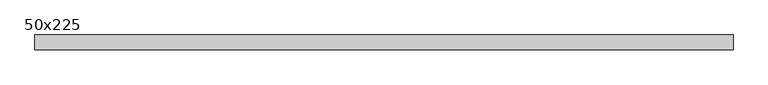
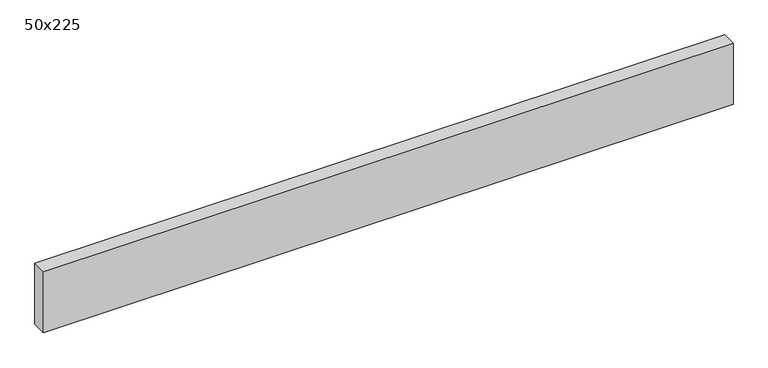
"""IFC4 building model written with IfcOpenShell, lengths in millimetres: beam geometry, Graded Timber : 50x225."""

from ifc_helpers import new_model, si_unit, frame, origin, place, context, project, spatial, polyline, outline, extrude, source, transform, mapped, element, save


def beam_50x225_d8450399(model_context):
    return source(origin(), model_context, "Body", "SweptSolid", [
        extrude(outline(polyline([(1178.0, 25.0), (1178.0, -25.0), (-1178.0, -25.0), (-1178.0, 25.0), (1178.0, 25.0)])), frame((0.0, 0.0, -110.0), z_axis=(0.0, 0.0, 1.0), x_axis=(1.0, 0.0, 0.0)), (0.0, 0.0, 1.0), 220.0),
    ])


if __name__ == "__main__":
    model = new_model("IFC4")
    model_context = context("Model", 3, world=origin())
    ifc_project = project(units=[si_unit("LENGTHUNIT", "METRE", prefix="MILLI")], contexts=[model_context])
    site = spatial("IfcSite", under=ifc_project)
    building = spatial("IfcBuilding", under=site)
    placement = place(None, origin())
    beam_50x225_shape = beam_50x225_d8450399(model_context)
    element("IfcBeam", 1, ObjectType="Graded Timber : 50x225", at=placement, inside=building, context=model_context, shape_type="MappedRepresentation", body=[
        mapped(beam_50x225_shape, transform((0.0, 0.0, 0.0), x_axis=(1.0, 0.0, 0.0), y_axis=(0.0, 1.0, 0.0), z_axis=(0.0, 0.0, 1.0))),
    ])
    save(model, "model.ifc")
